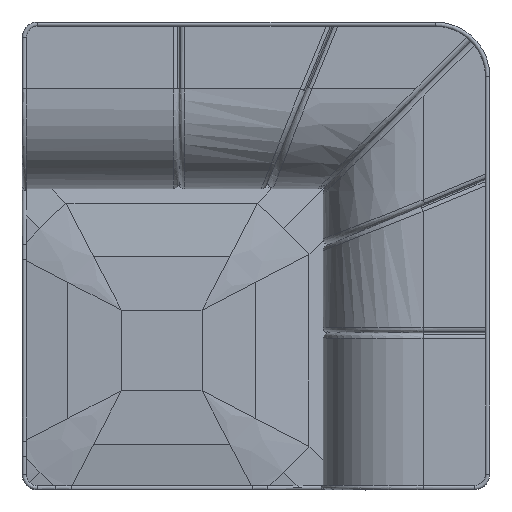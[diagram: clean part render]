
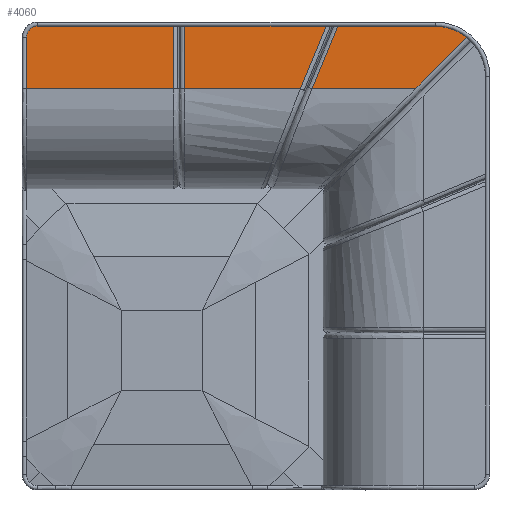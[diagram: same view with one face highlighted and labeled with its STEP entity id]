
A CAD part, top view. The second image highlights one B-rep face of the part: STEP entity #4060.
In plain terms, the highlighted planar face has unit normal (0, 0, 1).
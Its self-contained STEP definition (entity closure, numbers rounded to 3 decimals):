
#76 = DIRECTION ( 'NONE',  ( 0., -1., 0. ) ) ;
#132 = ORIENTED_EDGE ( 'NONE', *, *, #10156, .T. ) ;
#178 = AXIS2_PLACEMENT_3D ( 'NONE', #2685, #9253, #14554 ) ;
#341 = CARTESIAN_POINT ( 'NONE',  ( -1755.992, -16041.85, 680. ) ) ;
#419 = CARTESIAN_POINT ( 'NONE',  ( -1817.5, -16020., 680. ) ) ;
#529 = VERTEX_POINT ( 'NONE', #11008 ) ;
#616 = VECTOR ( 'NONE', #6270, 1000. ) ;
#773 = EDGE_CURVE ( 'NONE', #2200, #7805, #15147, .T. ) ;
#797 = VERTEX_POINT ( 'NONE', #6050 ) ;
#855 = CARTESIAN_POINT ( 'NONE',  ( -2580., -16045., 680. ) ) ;
#956 = FACE_OUTER_BOUND ( 'NONE', #3793, .T. ) ;
#1178 = ORIENTED_EDGE ( 'NONE', *, *, #773, .F. ) ;
#1372 = VECTOR ( 'NONE', #76, 1000. ) ;
#1408 = VECTOR ( 'NONE', #2213, 1000. ) ;
#1523 = CARTESIAN_POINT ( 'NONE',  ( -1817.5, -16020., 680. ) ) ;
#1682 = CARTESIAN_POINT ( 'NONE',  ( -1850.615, -16136.47, 680. ) ) ;
#1702 = EDGE_CURVE ( 'NONE', #14303, #9047, #16619, .T. ) ;
#1720 = ORIENTED_EDGE ( 'NONE', *, *, #12819, .F. ) ;
#2089 = AXIS2_PLACEMENT_3D ( 'NONE', #12416, #11316, #15018 ) ;
#2200 = VERTEX_POINT ( 'NONE', #8214 ) ;
#2213 = DIRECTION ( 'NONE',  ( -1., 0., 0. ) ) ;
#2238 = CARTESIAN_POINT ( 'NONE',  ( -1842.359, -16128.215, 680. ) ) ;
#2319 = CARTESIAN_POINT ( 'NONE',  ( -1755.992, -16041.85, 680. ) ) ;
#2429 = EDGE_CURVE ( 'NONE', #9695, #797, #16632, .T. ) ;
#2685 = CARTESIAN_POINT ( 'NONE',  ( -1817.5, -16117.5, 680. ) ) ;
#2756 = ORIENTED_EDGE ( 'NONE', *, *, #6014, .T. ) ;
#2821 = ORIENTED_EDGE ( 'NONE', *, *, #4850, .T. ) ;
#3206 = VERTEX_POINT ( 'NONE', #7317 ) ;
#3372 = PLANE ( 'NONE',  #16456 ) ;
#3524 = VECTOR ( 'NONE', #16277, 1000. ) ;
#3547 = LINE ( 'NONE', #8439, #3524 ) ;
#3572 = CARTESIAN_POINT ( 'NONE',  ( -1847.073, -16132.928, 680. ) ) ;
#3706 = ORIENTED_EDGE ( 'NONE', *, *, #2429, .T. ) ;
#3793 = EDGE_LOOP ( 'NONE', ( #13782, #3706, #7118, #14347, #1178, #8474, #11610, #1720, #15466, #2821, #132, #2756, #10990, #6798, #12564, #6454 ) ) ;
#3917 = CIRCLE ( 'NONE', #178, 97.5 ) ;
#4055 = EDGE_CURVE ( 'NONE', #7805, #6981, #9623, .T. ) ;
#4060 = ADVANCED_FACE ( 'NONE', ( #956 ), #3372, .T. ) ;
#4255 = EDGE_CURVE ( 'NONE', #14303, #14423, #3547, .T. ) ;
#4400 = B_SPLINE_CURVE_WITH_KNOTS ( 'NONE', 3,
 ( #7051, #5780, #1682, #14474 ),
 .UNSPECIFIED., .F., .F.,
 ( 4, 4 ),
 ( 0., 1. ),
 .UNSPECIFIED. ) ;
#4500 = LINE ( 'NONE', #5687, #7188 ) ;
#4724 = DIRECTION ( 'NONE',  ( -1., 0., 0. ) ) ;
#4725 = LINE ( 'NONE', #9866, #12939 ) ;
#4850 = EDGE_CURVE ( 'NONE', #8012, #10261, #5086, .T. ) ;
#5019 = VECTOR ( 'NONE', #14052, 1000. ) ;
#5024 = DIRECTION ( 'NONE',  ( 0., 0., -1. ) ) ;
#5051 = CARTESIAN_POINT ( 'NONE',  ( -2555., -16020., 680. ) ) ;
#5086 = B_SPLINE_CURVE_WITH_KNOTS ( 'NONE', 3,
 ( #3572, #2238, #11160, #14945, #11416, #13853, #9977, #6022, #16559, #2319 ),
 .UNSPECIFIED., .F., .F.,
 ( 4, 3, 3, 4 ),
 ( 0., 0.02, 0.1, 0.129 ),
 .UNSPECIFIED. ) ;
#5687 = CARTESIAN_POINT ( 'NONE',  ( -1996.176, -16023., 680. ) ) ;
#5780 = CARTESIAN_POINT ( 'NONE',  ( -1852.972, -16138.828, 680. ) ) ;
#6014 = EDGE_CURVE ( 'NONE', #10141, #14524, #13057, .T. ) ;
#6022 = CARTESIAN_POINT ( 'NONE',  ( -1769.58, -16055.438, 680. ) ) ;
#6050 = CARTESIAN_POINT ( 'NONE',  ( -2283., -16023., 680. ) ) ;
#6083 = DIRECTION ( 'NONE',  ( 1., 0., 0. ) ) ;
#6231 = EDGE_CURVE ( 'NONE', #3206, #8012, #4400, .T. ) ;
#6270 = DIRECTION ( 'NONE',  ( 1., 0., 0. ) ) ;
#6305 = EDGE_CURVE ( 'NONE', #529, #7275, #8392, .T. ) ;
#6454 = ORIENTED_EDGE ( 'NONE', *, *, #8169, .F. ) ;
#6481 = CARTESIAN_POINT ( 'NONE',  ( -2303., -16140., 680. ) ) ;
#6798 = ORIENTED_EDGE ( 'NONE', *, *, #1702, .F. ) ;
#6926 = EDGE_CURVE ( 'NONE', #6981, #797, #11148, .T. ) ;
#6981 = VERTEX_POINT ( 'NONE', #11068 ) ;
#7051 = CARTESIAN_POINT ( 'NONE',  ( -1854.144, -16140., 680. ) ) ;
#7118 = ORIENTED_EDGE ( 'NONE', *, *, #6926, .F. ) ;
#7188 = VECTOR ( 'NONE', #8301, 1000. ) ;
#7221 = CARTESIAN_POINT ( 'NONE',  ( -2555., -16045., 680. ) ) ;
#7275 = VERTEX_POINT ( 'NONE', #15854 ) ;
#7317 = CARTESIAN_POINT ( 'NONE',  ( -1854.144, -16140., 680. ) ) ;
#7351 = DIRECTION ( 'NONE',  ( -1., 0., 0. ) ) ;
#7510 = VERTEX_POINT ( 'NONE', #6481 ) ;
#7644 = LINE ( 'NONE', #11689, #1372 ) ;
#7805 = VERTEX_POINT ( 'NONE', #15304 ) ;
#8012 = VERTEX_POINT ( 'NONE', #10256 ) ;
#8077 = EDGE_CURVE ( 'NONE', #9695, #7510, #7644, .T. ) ;
#8128 = CARTESIAN_POINT ( 'NONE',  ( -2572.678, -16027.322, 680. ) ) ;
#8169 = EDGE_CURVE ( 'NONE', #7510, #14423, #4725, .T. ) ;
#8214 = CARTESIAN_POINT ( 'NONE',  ( -2019.067, -16023., 680. ) ) ;
#8301 = DIRECTION ( 'NONE',  ( 1., 0., 0. ) ) ;
#8392 = LINE ( 'NONE', #12271, #16156 ) ;
#8439 = CARTESIAN_POINT ( 'NONE',  ( -2580., -16507.429, 680. ) ) ;
#8474 = ORIENTED_EDGE ( 'NONE', *, *, #13737, .T. ) ;
#8521 = CARTESIAN_POINT ( 'NONE',  ( -1817.5, -16140., 680. ) ) ;
#9047 = VERTEX_POINT ( 'NONE', #8128 ) ;
#9253 = DIRECTION ( 'NONE',  ( 0., 0., 1. ) ) ;
#9623 = LINE ( 'NONE', #8521, #1408 ) ;
#9695 = VERTEX_POINT ( 'NONE', #12542 ) ;
#9866 = CARTESIAN_POINT ( 'NONE',  ( -1817.5, -16140., 680. ) ) ;
#9977 = CARTESIAN_POINT ( 'NONE',  ( -1776.375, -16062.232, 680. ) ) ;
#10141 = VERTEX_POINT ( 'NONE', #419 ) ;
#10142 = CARTESIAN_POINT ( 'NONE',  ( -1996.176, -16023., 680. ) ) ;
#10156 = EDGE_CURVE ( 'NONE', #10261, #10141, #3917, .T. ) ;
#10256 = CARTESIAN_POINT ( 'NONE',  ( -1847.073, -16132.928, 680. ) ) ;
#10261 = VERTEX_POINT ( 'NONE', #341 ) ;
#10780 = VECTOR ( 'NONE', #11789, 1000. ) ;
#10990 = ORIENTED_EDGE ( 'NONE', *, *, #15503, .F. ) ;
#11000 = DIRECTION ( 'NONE',  ( 0.383, 0.924, 0. ) ) ;
#11008 = CARTESIAN_POINT ( 'NONE',  ( -2045.882, -16140., 680. ) ) ;
#11068 = CARTESIAN_POINT ( 'NONE',  ( -2283., -16140., 680. ) ) ;
#11148 = LINE ( 'NONE', #16126, #14015 ) ;
#11160 = CARTESIAN_POINT ( 'NONE',  ( -1837.646, -16123.502, 680. ) ) ;
#11316 = DIRECTION ( 'NONE',  ( 0., 0., -1. ) ) ;
#11416 = CARTESIAN_POINT ( 'NONE',  ( -1814.08, -16099.936, 680. ) ) ;
#11441 = CARTESIAN_POINT ( 'NONE',  ( -2096.488, -16209.911, 680. ) ) ;
#11457 = CARTESIAN_POINT ( 'NONE',  ( -2580., -16140., 680. ) ) ;
#11610 = ORIENTED_EDGE ( 'NONE', *, *, #6305, .F. ) ;
#11689 = CARTESIAN_POINT ( 'NONE',  ( -2303., -15996.064, 680. ) ) ;
#11789 = DIRECTION ( 'NONE',  ( -1., 0., 0. ) ) ;
#12042 = VECTOR ( 'NONE', #4724, 1000. ) ;
#12188 = AXIS2_PLACEMENT_3D ( 'NONE', #7221, #5024, #12701 ) ;
#12233 = LINE ( 'NONE', #15944, #12042 ) ;
#12271 = CARTESIAN_POINT ( 'NONE',  ( -2078.01, -16217.565, 680. ) ) ;
#12416 = CARTESIAN_POINT ( 'NONE',  ( -2555., -16045., 680. ) ) ;
#12542 = CARTESIAN_POINT ( 'NONE',  ( -2303., -16023., 680. ) ) ;
#12564 = ORIENTED_EDGE ( 'NONE', *, *, #4255, .T. ) ;
#12701 = DIRECTION ( 'NONE',  ( -0.707, 0.707, 0. ) ) ;
#12819 = EDGE_CURVE ( 'NONE', #3206, #529, #12233, .T. ) ;
#12939 = VECTOR ( 'NONE', #7351, 1000. ) ;
#13057 = LINE ( 'NONE', #1523, #10780 ) ;
#13661 = CARTESIAN_POINT ( 'NONE',  ( -1817.5, -16117.5, 680. ) ) ;
#13737 = EDGE_CURVE ( 'NONE', #2200, #7275, #4500, .T. ) ;
#13782 = ORIENTED_EDGE ( 'NONE', *, *, #8077, .F. ) ;
#13853 = CARTESIAN_POINT ( 'NONE',  ( -1795.227, -16081.084, 680. ) ) ;
#14015 = VECTOR ( 'NONE', #16464, 1000. ) ;
#14052 = DIRECTION ( 'NONE',  ( -0.383, -0.924, 0. ) ) ;
#14303 = VERTEX_POINT ( 'NONE', #855 ) ;
#14347 = ORIENTED_EDGE ( 'NONE', *, *, #4055, .F. ) ;
#14423 = VERTEX_POINT ( 'NONE', #11457 ) ;
#14474 = CARTESIAN_POINT ( 'NONE',  ( -1847.073, -16132.928, 680. ) ) ;
#14524 = VERTEX_POINT ( 'NONE', #5051 ) ;
#14554 = DIRECTION ( 'NONE',  ( 1., 0., 0. ) ) ;
#14762 = DIRECTION ( 'NONE',  ( 0., 0., 1. ) ) ;
#14945 = CARTESIAN_POINT ( 'NONE',  ( -1832.933, -16118.789, 680. ) ) ;
#15018 = DIRECTION ( 'NONE',  ( -0.707, 0.707, 0. ) ) ;
#15147 = LINE ( 'NONE', #11441, #5019 ) ;
#15304 = CARTESIAN_POINT ( 'NONE',  ( -2067.53, -16140., 680. ) ) ;
#15422 = CIRCLE ( 'NONE', #12188, 25. ) ;
#15466 = ORIENTED_EDGE ( 'NONE', *, *, #6231, .T. ) ;
#15503 = EDGE_CURVE ( 'NONE', #9047, #14524, #15422, .T. ) ;
#15854 = CARTESIAN_POINT ( 'NONE',  ( -1997.419, -16023., 680. ) ) ;
#15944 = CARTESIAN_POINT ( 'NONE',  ( -2243.279, -16140., 680. ) ) ;
#16126 = CARTESIAN_POINT ( 'NONE',  ( -2283., -15996.064, 680. ) ) ;
#16156 = VECTOR ( 'NONE', #11000, 1000. ) ;
#16277 = DIRECTION ( 'NONE',  ( 0., -1., 0. ) ) ;
#16456 = AXIS2_PLACEMENT_3D ( 'NONE', #13661, #14762, #6083 ) ;
#16464 = DIRECTION ( 'NONE',  ( 0., 1., 0. ) ) ;
#16559 = CARTESIAN_POINT ( 'NONE',  ( -1762.786, -16048.644, 680. ) ) ;
#16619 = CIRCLE ( 'NONE', #2089, 25. ) ;
#16632 = LINE ( 'NONE', #10142, #616 ) ;
